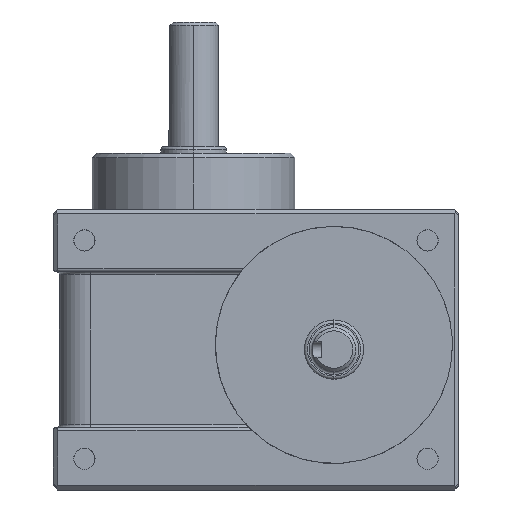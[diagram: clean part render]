
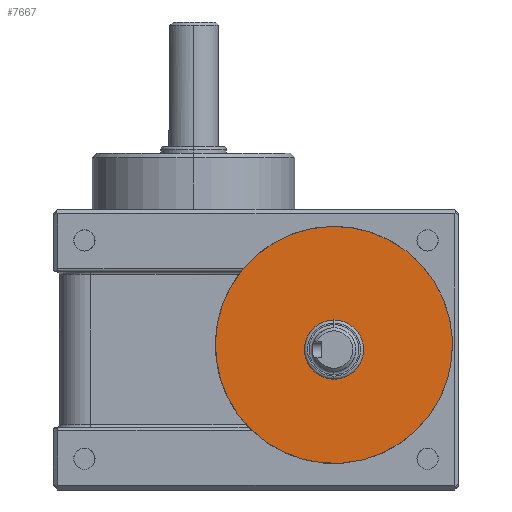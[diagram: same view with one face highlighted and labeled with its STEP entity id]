
A CAD part, left-side view. The second image highlights one B-rep face of the part: STEP entity #7667.
In plain terms, the highlighted planar face has unit normal (-1, 0, 0).
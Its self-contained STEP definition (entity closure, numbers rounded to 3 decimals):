
#3025=CARTESIAN_POINT('',(-44.,-25.,-45.));
#3026=DIRECTION('',(-1.,0.,0.));
#3027=DIRECTION('',(0.,0.,1.));
#3028=AXIS2_PLACEMENT_3D('',#3025,#3026,#3027);
#3030=CARTESIAN_POINT('',(-44.,-25.,-45.));
#3031=DIRECTION('',(-1.,0.,0.));
#3032=DIRECTION('',(0.,0.,-1.));
#3033=AXIS2_PLACEMENT_3D('',#3030,#3031,#3032);
#3035=CARTESIAN_POINT('',(-44.,-25.,-43.5));
#3036=DIRECTION('',(-1.,0.,0.));
#3037=DIRECTION('',(0.,0.786,0.618));
#3038=AXIS2_PLACEMENT_3D('',#3035,#3036,#3037);
#3542=CARTESIAN_POINT('',(-44.,-25.,-43.5));
#3543=DIRECTION('',(-1.,0.,0.));
#3544=DIRECTION('',(0.,0.717,-0.697));
#3545=AXIS2_PLACEMENT_3D('',#3542,#3543,#3544);
#4465=CARTESIAN_POINT('',(-44.,2.235,-70.));
#4466=CARTESIAN_POINT('',(-44.,4.862,-20.));
#4467=VERTEX_POINT('',#4465);
#4468=VERTEX_POINT('',#4466);
#4577=CARTESIAN_POINT('',(-44.,-25.,-35.5));
#4578=CARTESIAN_POINT('',(-44.,-25.,-54.5));
#4579=VERTEX_POINT('',#4577);
#4580=VERTEX_POINT('',#4578);
#7651=CARTESIAN_POINT('',(-44.,0.,0.));
#7652=DIRECTION('',(-1.,0.,0.));
#7653=DIRECTION('',(0.,0.,-1.));
#7654=AXIS2_PLACEMENT_3D('',#7651,#7652,#7653);
#7655=PLANE('',#7654);
#7656=ORIENTED_EDGE('',*,*,#7642,.F.);
#7658=ORIENTED_EDGE('',*,*,#7657,.F.);
#7659=EDGE_LOOP('',(#7656,#7658));
#7660=FACE_OUTER_BOUND('',#7659,.F.);
#7662=ORIENTED_EDGE('',*,*,#7661,.T.);
#7664=ORIENTED_EDGE('',*,*,#7663,.T.);
#7665=EDGE_LOOP('',(#7662,#7664));
#7666=FACE_BOUND('',#7665,.F.);
#3029=CIRCLE('',#3028,9.5);
#3034=CIRCLE('',#3033,9.5);
#3039=CIRCLE('',#3038,38.);
#3546=CIRCLE('',#3545,38.);
#7642=EDGE_CURVE('',#4468,#4467,#3039,.T.);
#7657=EDGE_CURVE('',#4467,#4468,#3546,.T.);
#7661=EDGE_CURVE('',#4579,#4580,#3029,.T.);
#7663=EDGE_CURVE('',#4580,#4579,#3034,.T.);
#7667=ADVANCED_FACE('',(#7660,#7666),#7655,.T.);
